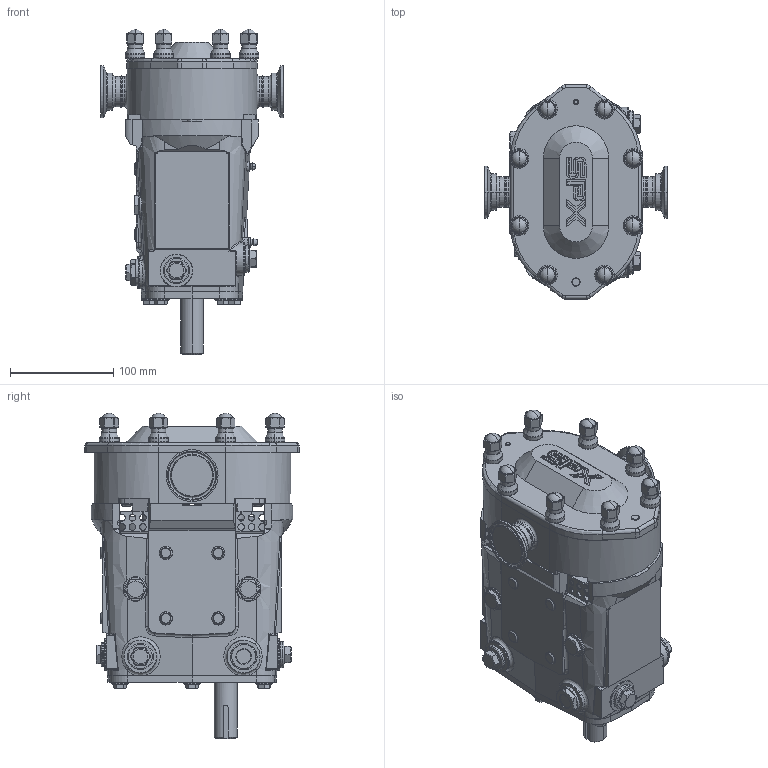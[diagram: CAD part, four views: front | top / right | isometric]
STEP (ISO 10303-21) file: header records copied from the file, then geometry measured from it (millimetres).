
FILE_DESCRIPTION (( 'STEP AP214' ), '1' );
FILE_NAME ('Model 006 Universal 3 Series Side Mount RH.STEP', '2017-11-17T22:02:14', ( '' ), ( '' ), 'SwSTEP 2.0', 'SolidWorks 2014', '' );
FILE_SCHEMA (( 'AUTOMOTIVE_DESIGN' ));
Length unit declared in the file: inch
Products named in the file (1): Model 006 Universal 3 Series Side Mount RH
Bounding box: 177.02 x 207.77 x 315.56 mm (x, y, z)
Volume: 4220097.8 mm3; surface area: 291641.6 mm2
Topology: 3 solids, 3 shells, 2055 faces, 5277 edges, 3334 vertices
Faces by surface type: plane 798, cylinder 635, torus 279, cone 238, bspline 87, sphere 18
Entity records: 68254 total; most frequent: CARTESIAN_POINT 18349, DIRECTION 10580, ORIENTED_EDGE 10538, EDGE_CURVE 5269, AXIS2_PLACEMENT_3D 4099, VERTEX_POINT 3334, LINE 2382, VECTOR 2382
